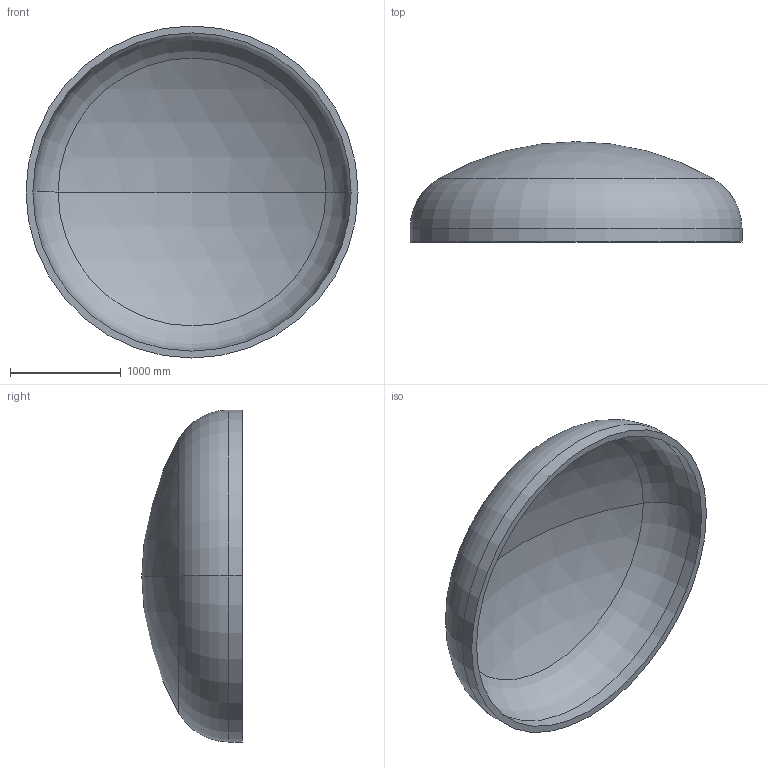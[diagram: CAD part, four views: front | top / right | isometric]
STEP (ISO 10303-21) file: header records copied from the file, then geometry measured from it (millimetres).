
FILE_DESCRIPTION (( 'STEP AP203' ), '1' );
FILE_NAME ('DIN 28013 Korbbogenform_-_Boden DIN 28013 - 3000 x 120 - I - s=62.step', '2016-07-01T17:55:31', ( '' ), ( '' ), 'SwSTEP 2.0', 'SolidWorks 2013', '' );
FILE_SCHEMA (( 'CONFIG_CONTROL_DESIGN' ));
Length unit declared in the file: millimetre
Products named in the file (1): DIN 28013 Korbbogenform_-_Boden DIN 28013 - 3000 x 120 - I - s=62
Bounding box: 3000 x 906.55 x 3000 mm (x, y, z)
Volume: 658851857.6 mm3; surface area: 21833589.3 mm2
Topology: 1 solids, 1 shells, 13 faces, 24 edges, 14 vertices
Faces by surface type: torus 4, cylinder 4, sphere 4, plane 1
Entity records: 407 total; most frequent: DIRECTION 72, CARTESIAN_POINT 52, ORIENTED_EDGE 48, AXIS2_PLACEMENT_3D 34, EDGE_CURVE 24, CIRCLE 20, VERTEX_POINT 14, EDGE_LOOP 14
